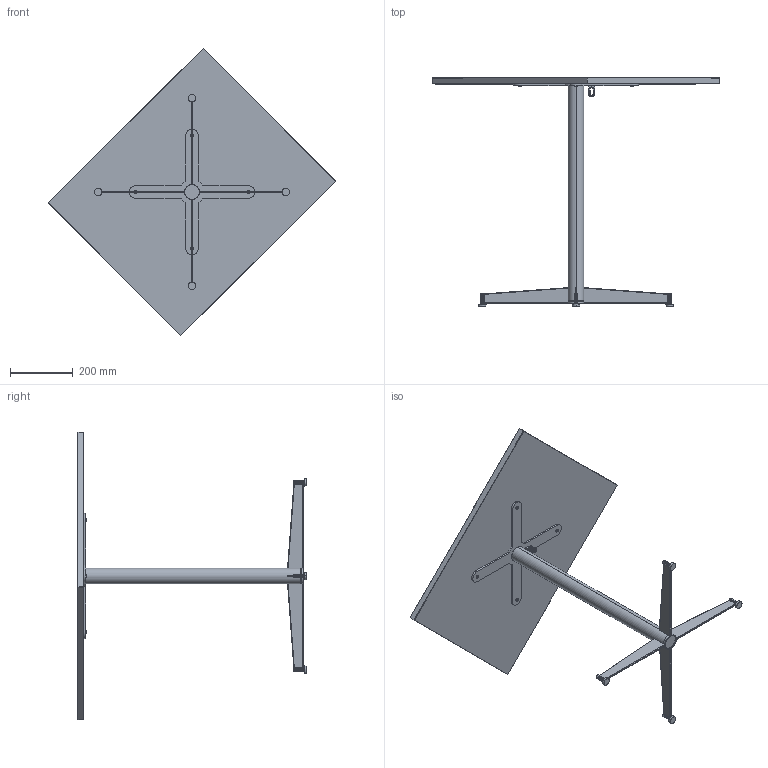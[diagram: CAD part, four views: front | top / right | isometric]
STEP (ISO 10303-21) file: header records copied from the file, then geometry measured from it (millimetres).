
FILE_DESCRIPTION (( 'STEP AP214' ), '1' );
FILE_NAME ('Nook Dining Table 60x70 marble wood.STEP', '2025-07-30T07:57:44', ( '' ), ( '' ), 'SwSTEP 2.0', 'SolidWorks 2024', '' );
FILE_SCHEMA (( 'AUTOMOTIVE_DESIGN' ));
Length unit declared in the file: millimetre
Products named in the file (10): 085A214_R01 Nook Table inner thread stud; SF257M627S-Ackurat; 085A2016_R01 Nook Tabletop 60x70x2; 085A206_R01 Nook Dining Table Wire Attachment; socket button head screw_iso_ISO 7380 - M6 x 12 - 12N; 085A206_R01 Nook Table Leg 6mm Steel test; 085A106_R01 Nook Dining Table X Plate Assembly Steel; 085A205_R01 Nook Dining Table Leg Joint Steel; Nook Dining Table 60x70 marble wood; 085A201_R01 Nook Dining Table X Plate Steel
Assembly tree (21 placements, depth 3):
  Nook Dining Table 60x70 marble wood
    085A205_R01 Nook Dining Table Leg Joint Steel
    085A206_R01 Nook Table Leg 6mm Steel test  x4
    085A214_R01 Nook Table inner thread stud  x4
    085A106_R01 Nook Dining Table X Plate Assembly Steel
      085A201_R01 Nook Dining Table X Plate Steel
      085A206_R01 Nook Dining Table Wire Attachment
    SF257M627S-Ackurat  x4
    085A2016_R01 Nook Tabletop 60x70x2
    socket button head screw_iso_ISO 7380 - M6 x 12 - 12N  x4
Bounding box: 917.95 x 731 x 917.7 mm (x, y, z)
Volume: 9035513.7 mm3; surface area: 1292945 mm2
Topology: 20 solids, 20 shells, 600 faces, 1506 edges, 960 vertices
Faces by surface type: cylinder 340, plane 168, cone 40, torus 32, bspline 12, sphere 8
Entity records: 11781 total; most frequent: CARTESIAN_POINT 6043, ORIENTED_EDGE 1154, DIRECTION 1142, EDGE_CURVE 577, AXIS2_PLACEMENT_3D 432, VERTEX_POINT 363, LINE 278, VECTOR 278
